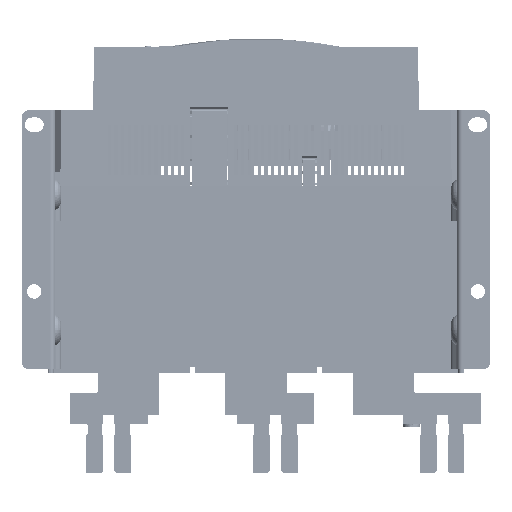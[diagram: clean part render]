
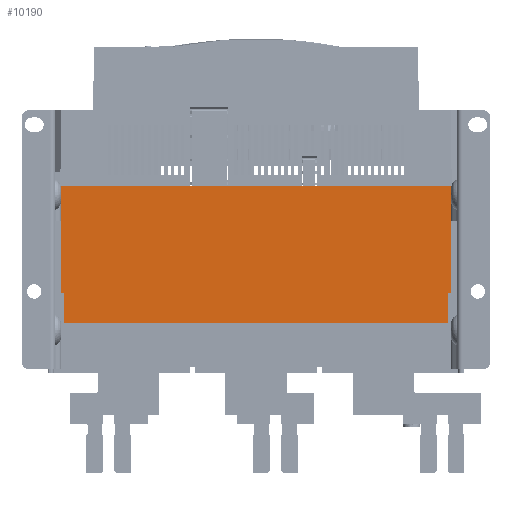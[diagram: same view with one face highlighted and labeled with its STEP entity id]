
A CAD part, front view. The second image highlights one B-rep face of the part: STEP entity #10190.
In plain terms, the highlighted planar face has unit normal (0, -1, 0).
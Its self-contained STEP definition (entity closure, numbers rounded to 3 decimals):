
#1218 = EDGE_CURVE ( 'NONE', #107221, #96109, #110900, .T. ) ;
#4999 = CARTESIAN_POINT ( 'NONE',  ( 230.972, 79.913, 309.114 ) ) ;
#10190 = ADVANCED_FACE ( 'NONE', ( #138069 ), #47800, .F. ) ;
#11787 = EDGE_CURVE ( 'NONE', #88299, #215388, #222158, .T. ) ;
#21807 = CARTESIAN_POINT ( 'NONE',  ( 58.472, 79.913, 274.614 ) ) ;
#21995 = ORIENTED_EDGE ( 'NONE', *, *, #1218, .F. ) ;
#24336 = VECTOR ( 'NONE', #37356, 1000. ) ;
#25220 = VECTOR ( 'NONE', #239632, 1000. ) ;
#27803 = CARTESIAN_POINT ( 'NONE',  ( -114.028, 79.913, 274.614 ) ) ;
#37356 = DIRECTION ( 'NONE',  ( -1., 0., 0. ) ) ;
#44382 = CARTESIAN_POINT ( 'NONE',  ( 58.472, 79.913, 370.614 ) ) ;
#46126 = DIRECTION ( 'NONE',  ( 1., 0., 0. ) ) ;
#47800 = PLANE ( 'NONE',  #109454 ) ;
#59653 = EDGE_LOOP ( 'NONE', ( #147376, #21995, #218736, #140127, #96284, #175523, #108495, #77410 ) ) ;
#62378 = EDGE_CURVE ( 'NONE', #215388, #188619, #178011, .T. ) ;
#76536 = LINE ( 'NONE', #44382, #25220 ) ;
#77410 = ORIENTED_EDGE ( 'NONE', *, *, #92557, .F. ) ;
#77844 = VERTEX_POINT ( 'NONE', #201140 ) ;
#84634 = DIRECTION ( 'NONE',  ( 0., 0., 1. ) ) ;
#88299 = VERTEX_POINT ( 'NONE', #27803 ) ;
#92021 = CARTESIAN_POINT ( 'NONE',  ( -117.028, 79.913, 370.614 ) ) ;
#92268 = CARTESIAN_POINT ( 'NONE',  ( 233.972, 79.913, 309.114 ) ) ;
#92557 = EDGE_CURVE ( 'NONE', #77844, #88299, #111475, .T. ) ;
#96109 = VERTEX_POINT ( 'NONE', #119492 ) ;
#96284 = ORIENTED_EDGE ( 'NONE', *, *, #129591, .F. ) ;
#97953 = VECTOR ( 'NONE', #182197, 1000. ) ;
#98486 = LINE ( 'NONE', #92268, #201340 ) ;
#104647 = CARTESIAN_POINT ( 'NONE',  ( 233.972, 79.913, 274.614 ) ) ;
#106457 = CARTESIAN_POINT ( 'NONE',  ( 230.972, 79.913, 274.614 ) ) ;
#107221 = VERTEX_POINT ( 'NONE', #106457 ) ;
#108495 = ORIENTED_EDGE ( 'NONE', *, *, #11787, .F. ) ;
#108511 = VECTOR ( 'NONE', #84634, 1000. ) ;
#109212 = DIRECTION ( 'NONE',  ( 0., 0., -1. ) ) ;
#109454 = AXIS2_PLACEMENT_3D ( 'NONE', #182952, #179605, #46126 ) ;
#110900 = LINE ( 'NONE', #4999, #195521 ) ;
#111475 = LINE ( 'NONE', #138224, #235462 ) ;
#119492 = CARTESIAN_POINT ( 'NONE',  ( 230.972, 79.913, 247.614 ) ) ;
#129591 = EDGE_CURVE ( 'NONE', #188619, #169333, #76536, .T. ) ;
#130273 = CARTESIAN_POINT ( 'NONE',  ( 58.472, 79.913, 247.614 ) ) ;
#138069 = FACE_OUTER_BOUND ( 'NONE', #59653, .T. ) ;
#138224 = CARTESIAN_POINT ( 'NONE',  ( -114.028, 79.913, 309.114 ) ) ;
#140127 = ORIENTED_EDGE ( 'NONE', *, *, #232622, .F. ) ;
#142491 = DIRECTION ( 'NONE',  ( 0., 0., -1. ) ) ;
#147376 = ORIENTED_EDGE ( 'NONE', *, *, #177341, .F. ) ;
#159047 = VERTEX_POINT ( 'NONE', #104647 ) ;
#163376 = CARTESIAN_POINT ( 'NONE',  ( 233.972, 79.913, 370.614 ) ) ;
#168396 = CARTESIAN_POINT ( 'NONE',  ( -117.028, 79.913, 274.614 ) ) ;
#169333 = VERTEX_POINT ( 'NONE', #163376 ) ;
#175523 = ORIENTED_EDGE ( 'NONE', *, *, #62378, .F. ) ;
#176487 = DIRECTION ( 'NONE',  ( -1., 0., 0. ) ) ;
#177341 = EDGE_CURVE ( 'NONE', #96109, #77844, #196693, .T. ) ;
#178011 = LINE ( 'NONE', #240258, #108511 ) ;
#179605 = DIRECTION ( 'NONE',  ( 0., 1., 0. ) ) ;
#182197 = DIRECTION ( 'NONE',  ( -1., 0., 0. ) ) ;
#182952 = CARTESIAN_POINT ( 'NONE',  ( 58.472, 79.913, 309.114 ) ) ;
#184724 = VECTOR ( 'NONE', #176487, 1000. ) ;
#188619 = VERTEX_POINT ( 'NONE', #92021 ) ;
#195521 = VECTOR ( 'NONE', #142491, 1000. ) ;
#196693 = LINE ( 'NONE', #130273, #24336 ) ;
#196915 = LINE ( 'NONE', #234951, #184724 ) ;
#201140 = CARTESIAN_POINT ( 'NONE',  ( -114.028, 79.913, 247.614 ) ) ;
#201340 = VECTOR ( 'NONE', #109212, 1000. ) ;
#215319 = DIRECTION ( 'NONE',  ( 0., 0., 1. ) ) ;
#215388 = VERTEX_POINT ( 'NONE', #168396 ) ;
#218736 = ORIENTED_EDGE ( 'NONE', *, *, #247614, .F. ) ;
#222158 = LINE ( 'NONE', #21807, #97953 ) ;
#232622 = EDGE_CURVE ( 'NONE', #169333, #159047, #98486, .T. ) ;
#234951 = CARTESIAN_POINT ( 'NONE',  ( 58.472, 79.913, 274.614 ) ) ;
#235462 = VECTOR ( 'NONE', #215319, 1000. ) ;
#239632 = DIRECTION ( 'NONE',  ( 1., 0., 0. ) ) ;
#240258 = CARTESIAN_POINT ( 'NONE',  ( -117.028, 79.913, 309.114 ) ) ;
#247614 = EDGE_CURVE ( 'NONE', #159047, #107221, #196915, .T. ) ;
